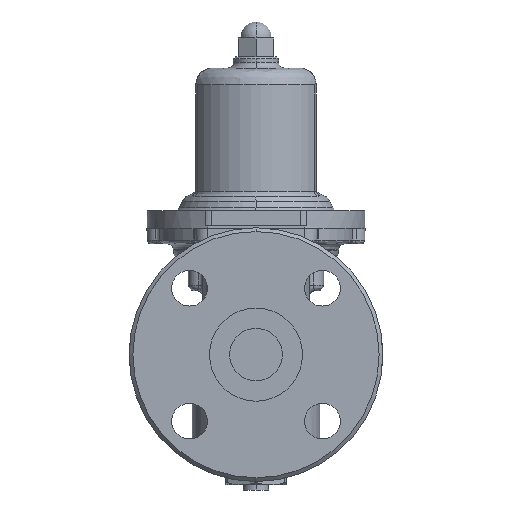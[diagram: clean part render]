
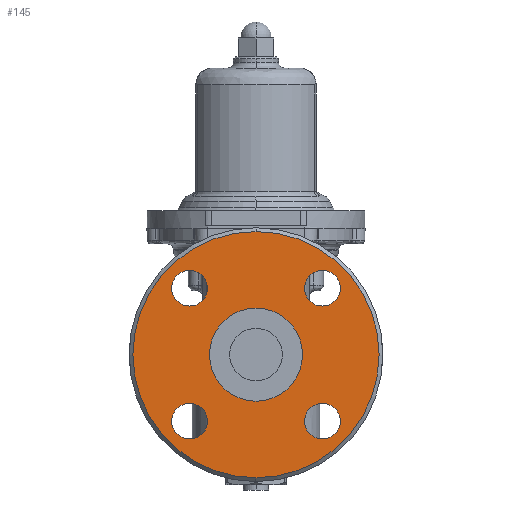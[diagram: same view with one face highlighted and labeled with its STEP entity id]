
A CAD part, left-side view. The second image highlights one B-rep face of the part: STEP entity #145.
In plain terms, the highlighted planar face has unit normal (-1, 0, 0).
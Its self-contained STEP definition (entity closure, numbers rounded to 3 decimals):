
#145=ADVANCED_FACE('',(#1696,#1697,#1698,#1699,#1700,#1701),#1695,.T.);
#1695=PLANE('',#8828);
#1696=FACE_OUTER_BOUND('',#8829,.T.);
#1697=FACE_BOUND('',#8830,.T.);
#1698=FACE_BOUND('',#8831,.T.);
#1699=FACE_BOUND('',#8832,.T.);
#1700=FACE_BOUND('',#8833,.T.);
#1701=FACE_BOUND('',#8834,.T.);
#8825=CARTESIAN_POINT('',(-122.5,-123.449,-141.));
#8826=DIRECTION('',(-1.,0.,0.));
#8827=DIRECTION('',(0.,0.,1.));
#8828=AXIS2_PLACEMENT_3D('',#8825,#8826,#8827);
#8829=EDGE_LOOP('',(#14715,#14716));
#8830=EDGE_LOOP('',(#14717,#14718));
#8831=EDGE_LOOP('',(#14719,#14720));
#8832=EDGE_LOOP('',(#14721,#14722));
#8833=EDGE_LOOP('',(#14723,#14724));
#8834=EDGE_LOOP('',(#14725,#14726));
#14715=ORIENTED_EDGE('',*,*,#17463,.T.);
#14716=ORIENTED_EDGE('',*,*,#17464,.T.);
#14717=ORIENTED_EDGE('',*,*,#17465,.F.);
#14718=ORIENTED_EDGE('',*,*,#17466,.F.);
#14719=ORIENTED_EDGE('',*,*,#17467,.F.);
#14720=ORIENTED_EDGE('',*,*,#17468,.F.);
#14721=ORIENTED_EDGE('',*,*,#17469,.F.);
#14722=ORIENTED_EDGE('',*,*,#17470,.F.);
#14723=ORIENTED_EDGE('',*,*,#17471,.F.);
#14724=ORIENTED_EDGE('',*,*,#17472,.F.);
#14725=ORIENTED_EDGE('',*,*,#17473,.F.);
#14726=ORIENTED_EDGE('',*,*,#17474,.F.);
#17463=EDGE_CURVE('',#21057,#21058,#21059,.T.);
#17464=EDGE_CURVE('',#21058,#21057,#21065,.T.);
#17465=EDGE_CURVE('',#21071,#21072,#21073,.T.);
#17466=EDGE_CURVE('',#21072,#21071,#21079,.T.);
#17467=EDGE_CURVE('',#21085,#21086,#21087,.T.);
#17468=EDGE_CURVE('',#21086,#21085,#21093,.T.);
#17469=EDGE_CURVE('',#21099,#21100,#21101,.T.);
#17470=EDGE_CURVE('',#21100,#21099,#21107,.T.);
#17471=EDGE_CURVE('',#21113,#21114,#21115,.T.);
#17472=EDGE_CURVE('',#21114,#21113,#21121,.T.);
#17473=EDGE_CURVE('',#21127,#21128,#21129,.T.);
#17474=EDGE_CURVE('',#21128,#21127,#21135,.T.);
#21057=VERTEX_POINT('',#30340);
#21058=VERTEX_POINT('',#30341);
#21059=CIRCLE('',#30345,65.5);
#21065=CIRCLE('',#30349,65.5);
#21071=VERTEX_POINT('',#30350);
#21072=VERTEX_POINT('',#30351);
#21073=CIRCLE('',#30355,9.5);
#21079=CIRCLE('',#30359,9.5);
#21085=VERTEX_POINT('',#30360);
#21086=VERTEX_POINT('',#30361);
#21087=CIRCLE('',#30365,9.5);
#21093=CIRCLE('',#30369,9.5);
#21099=VERTEX_POINT('',#30370);
#21100=VERTEX_POINT('',#30371);
#21101=CIRCLE('',#30375,9.5);
#21107=CIRCLE('',#30379,9.5);
#21113=VERTEX_POINT('',#30380);
#21114=VERTEX_POINT('',#30381);
#21115=CIRCLE('',#30385,9.5);
#21121=CIRCLE('',#30389,9.5);
#21127=VERTEX_POINT('',#30390);
#21128=VERTEX_POINT('',#30391);
#21129=CIRCLE('',#30395,24.75);
#21135=CIRCLE('',#30399,24.75);
#30340=CARTESIAN_POINT('',(-122.5,0.,65.5));
#30341=CARTESIAN_POINT('',(-122.5,0.,-65.5));
#30342=CARTESIAN_POINT('',(-122.5,0.,0.));
#30343=DIRECTION('',(-1.,0.,0.));
#30344=DIRECTION('',(0.,0.,1.));
#30345=AXIS2_PLACEMENT_3D('',#30342,#30343,#30344);
#30346=CARTESIAN_POINT('',(-122.5,0.,0.));
#30347=DIRECTION('',(-1.,0.,0.));
#30348=DIRECTION('',(0.,0.,1.));
#30349=AXIS2_PLACEMENT_3D('',#30346,#30347,#30348);
#30350=CARTESIAN_POINT('',(-122.5,-35.355,44.855));
#30351=CARTESIAN_POINT('',(-122.5,-35.355,25.855));
#30352=CARTESIAN_POINT('',(-122.5,-35.355,35.355));
#30353=DIRECTION('',(-1.,0.,0.));
#30354=DIRECTION('',(0.,0.,-1.));
#30355=AXIS2_PLACEMENT_3D('',#30352,#30353,#30354);
#30356=CARTESIAN_POINT('',(-122.5,-35.355,35.355));
#30357=DIRECTION('',(-1.,0.,0.));
#30358=DIRECTION('',(0.,0.,-1.));
#30359=AXIS2_PLACEMENT_3D('',#30356,#30357,#30358);
#30360=CARTESIAN_POINT('',(-122.5,35.355,-25.855));
#30361=CARTESIAN_POINT('',(-122.5,35.355,-44.855));
#30362=CARTESIAN_POINT('',(-122.5,35.355,-35.355));
#30363=DIRECTION('',(-1.,0.,0.));
#30364=DIRECTION('',(0.,0.,-1.));
#30365=AXIS2_PLACEMENT_3D('',#30362,#30363,#30364);
#30366=CARTESIAN_POINT('',(-122.5,35.355,-35.355));
#30367=DIRECTION('',(-1.,0.,0.));
#30368=DIRECTION('',(0.,0.,-1.));
#30369=AXIS2_PLACEMENT_3D('',#30366,#30367,#30368);
#30370=CARTESIAN_POINT('',(-122.5,35.355,44.855));
#30371=CARTESIAN_POINT('',(-122.5,35.355,25.855));
#30372=CARTESIAN_POINT('',(-122.5,35.355,35.355));
#30373=DIRECTION('',(-1.,0.,0.));
#30374=DIRECTION('',(0.,0.,-1.));
#30375=AXIS2_PLACEMENT_3D('',#30372,#30373,#30374);
#30376=CARTESIAN_POINT('',(-122.5,35.355,35.355));
#30377=DIRECTION('',(-1.,0.,0.));
#30378=DIRECTION('',(0.,0.,-1.));
#30379=AXIS2_PLACEMENT_3D('',#30376,#30377,#30378);
#30380=CARTESIAN_POINT('',(-122.5,-35.355,-25.855));
#30381=CARTESIAN_POINT('',(-122.5,-35.355,-44.855));
#30382=CARTESIAN_POINT('',(-122.5,-35.355,-35.355));
#30383=DIRECTION('',(-1.,0.,0.));
#30384=DIRECTION('',(0.,0.,-1.));
#30385=AXIS2_PLACEMENT_3D('',#30382,#30383,#30384);
#30386=CARTESIAN_POINT('',(-122.5,-35.355,-35.355));
#30387=DIRECTION('',(-1.,0.,0.));
#30388=DIRECTION('',(0.,0.,-1.));
#30389=AXIS2_PLACEMENT_3D('',#30386,#30387,#30388);
#30390=CARTESIAN_POINT('',(-122.5,0.,-24.75));
#30391=CARTESIAN_POINT('',(-122.5,0.,24.75));
#30392=CARTESIAN_POINT('',(-122.5,0.,0.));
#30393=DIRECTION('',(-1.,0.,0.));
#30394=DIRECTION('',(0.,0.,1.));
#30395=AXIS2_PLACEMENT_3D('',#30392,#30393,#30394);
#30396=CARTESIAN_POINT('',(-122.5,0.,0.));
#30397=DIRECTION('',(-1.,0.,0.));
#30398=DIRECTION('',(0.,0.,1.));
#30399=AXIS2_PLACEMENT_3D('',#30396,#30397,#30398);
